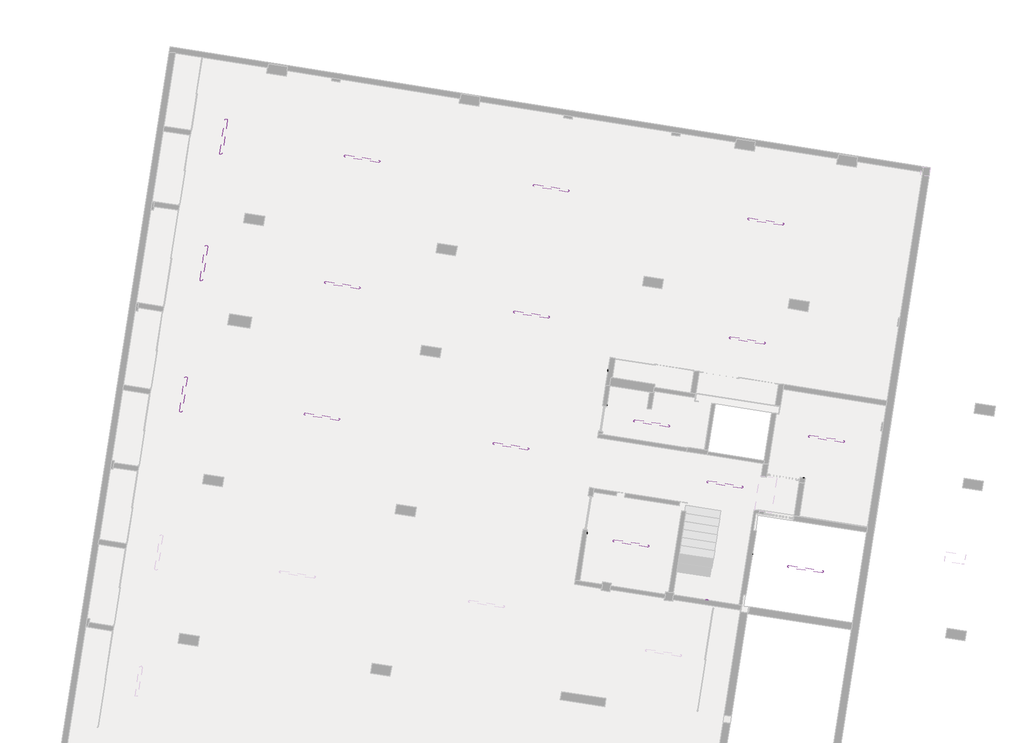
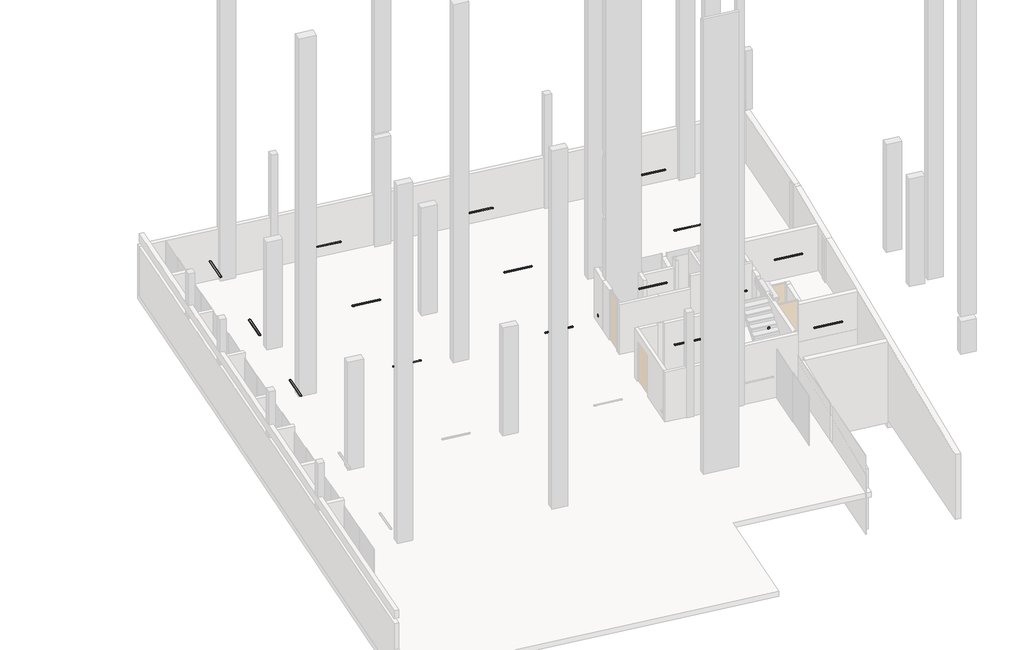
# One storey, part 5 of 5: 21 light fixtures, 1 proxy.
"""IFC4 building model written with IfcOpenShell, lengths in millimetres."""

from ifc_helpers import new_model, si_unit, origin, place, context, project, spatial, transform, mapped, element, save
from components import contacto_exterior_doble_contacto_b074df66, light_fixture_530e717e, light_fixture_2b11a0f5, light_fixture_7b468ed0, contacto_57433d2e

model = new_model("IFC4")

# Units and contexts
model_context = context("Model", 3, world=origin())
ifc_project = project(units=[si_unit("LENGTHUNIT", "METRE", prefix="MILLI")], contexts=[model_context])

# Site, building, storey
site = spatial("IfcSite", under=ifc_project)
building = spatial("IfcBuilding", under=site)
storey = spatial("IfcBuildingStorey", under=building, Name="SÓTANO 2", Elevation=-5800.0)

# Proxy
placement = place(None, origin())
contacto_exterior_doble_contacto_shape = contacto_exterior_doble_contacto_b074df66(model_context)
element("IfcBuildingElementProxy", 1, Name="Contacto exterior doble : Contacto", ObjectType="Contacto exterior doble : Contacto", at=placement, inside=storey, context=model_context, shape_type="MappedRepresentation", body=[
    mapped(contacto_exterior_doble_contacto_shape, transform((-35675.116256, -61314.7816386, -5745.0), x_axis=(0.1540098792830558, 0.9880693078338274, 0.0), y_axis=(-0.9880693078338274, 0.1540098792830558, 0.0), z_axis=(0.0, 0.0, 1.0))),
])

# Light fixtures
light_fixture_shape = light_fixture_530e717e(model_context)
element("IfcLightFixture", 2, ObjectType="Lumin techo_fluorescente : Luminarias bajo locales", at=placement, inside=storey, context=model_context, shape_type="MappedRepresentation", body=[
    mapped(light_fixture_shape, transform((-37770.3470636, -54693.344425, -5090.0), x_axis=(-0.9880693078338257, 0.1540098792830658, 0.0), y_axis=(-0.15400987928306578, -0.9880693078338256, 0.0), z_axis=(0.0, 0.0, 0.9999999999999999))),
])
element("IfcLightFixture", 3, ObjectType="Lumin techo_fluorescente : Luminarias bajo locales", at=placement, inside=storey, context=model_context, shape_type="MappedRepresentation", body=[
    mapped(light_fixture_shape, transform((-38472.8350647, -59200.2425288, -5090.0), x_axis=(-0.9880693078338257, 0.1540098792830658, 0.0), y_axis=(-0.15400987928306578, -0.9880693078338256, 0.0), z_axis=(0.0, 0.0, 0.9999999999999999))),
])
element("IfcLightFixture", 4, ObjectType="Lumin techo_fluorescente : Luminarias bajo locales", at=placement, inside=storey, context=model_context, shape_type="MappedRepresentation", body=[
    mapped(light_fixture_shape, transform((-39203.5912054, -63888.4983572, -5090.0), x_axis=(-0.9880693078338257, 0.1540098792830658, 0.0), y_axis=(-0.15400987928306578, -0.9880693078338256, 0.0), z_axis=(0.0, 0.0, 0.9999999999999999))),
])
element("IfcLightFixture", 5, ObjectType="Lumin techo_fluorescente : Luminarias bajo locales", at=placement, inside=storey, context=model_context, shape_type="MappedRepresentation", body=[
    mapped(light_fixture_shape, transform((-45211.4677434, -58149.8951522, -5090.0), x_axis=(-0.9880693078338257, 0.1540098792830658, 0.0), y_axis=(-0.15400987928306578, -0.9880693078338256, 0.0), z_axis=(0.0, 0.0, 0.9999999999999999))),
])
element("IfcLightFixture", 6, ObjectType="Lumin techo_fluorescente : Luminarias bajo locales", at=placement, inside=storey, context=model_context, shape_type="MappedRepresentation", body=[
    mapped(light_fixture_shape, transform((-45942.2238841, -62838.1509806, -5090.0), x_axis=(-0.9880693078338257, 0.1540098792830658, 0.0), y_axis=(-0.15400987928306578, -0.9880693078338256, 0.0), z_axis=(0.0, 0.0, 0.9999999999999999))),
])
element("IfcLightFixture", 7, ObjectType="Lumin techo_fluorescente : Luminarias bajo locales", at=placement, inside=storey, context=model_context, shape_type="MappedRepresentation", body=[
    mapped(light_fixture_shape, transform((-31582.9121381, -65253.6116517, -5090.0), x_axis=(-0.9880693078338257, 0.1540098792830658, 0.0), y_axis=(-0.15400987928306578, -0.9880693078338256, 0.0), z_axis=(0.0, 0.0, 0.9999999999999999))),
])
element("IfcLightFixture", 8, ObjectType="Lumin techo_fluorescente : Luminarias bajo locales", at=placement, inside=storey, context=model_context, shape_type="MappedRepresentation", body=[
    mapped(light_fixture_shape, transform((-50149.5041337, -57365.0247163, -5090.0), x_axis=(-0.15400987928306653, -0.9880693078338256, 0.0), y_axis=(0.9880693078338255, -0.1540098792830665, 0.0), z_axis=(0.0, 0.0, 0.9999999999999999))),
])
element("IfcLightFixture", 9, ObjectType="Lumin techo_fluorescente : Luminarias bajo locales", at=placement, inside=storey, context=model_context, shape_type="MappedRepresentation", body=[
    mapped(light_fixture_shape, transform((-50879.4902251, -62048.3401981, -5090.0), x_axis=(-0.15400987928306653, -0.9880693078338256, 0.0), y_axis=(0.9880693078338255, -0.1540098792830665, 0.0), z_axis=(0.0, 0.0, 0.9999999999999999))),
])
element("IfcLightFixture", 10, ObjectType="Lumin techo_fluorescente : Luminarias bajo locales", at=placement, inside=storey, context=model_context, shape_type="MappedRepresentation", body=[
    mapped(light_fixture_shape, transform((-30122.6905963, -55885.3808945, -5090.0), x_axis=(-0.9880693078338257, 0.1540098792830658, 0.0), y_axis=(-0.15400987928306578, -0.9880693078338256, 0.0), z_axis=(0.0, 0.0, 0.9999999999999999))),
])
element("IfcLightFixture", 11, ObjectType="Lumin techo_fluorescente : Luminarias bajo locales", at=placement, inside=storey, context=model_context, shape_type="MappedRepresentation", body=[
    mapped(light_fixture_shape, transform((-30782.8569762, -60120.7594367, -5090.0), x_axis=(-0.9880693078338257, 0.1540098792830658, 0.0), y_axis=(-0.15400987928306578, -0.9880693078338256, 0.0), z_axis=(0.0, 0.0, 0.9999999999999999))),
])
element("IfcLightFixture", 12, ObjectType="Lumin techo_fluorescente : Luminarias bajo locales", at=placement, inside=storey, context=model_context, shape_type="MappedRepresentation", body=[
    mapped(light_fixture_shape, transform((-44508.9797424, -53642.9970484, -5090.0), x_axis=(-0.9880693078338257, 0.1540098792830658, 0.0), y_axis=(-0.15400987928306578, -0.9880693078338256, 0.0), z_axis=(0.0, 0.0, 0.9999999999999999))),
])
element("IfcLightFixture", 13, ObjectType="Lumin techo_fluorescente : Luminarias bajo locales", at=placement, inside=storey, context=model_context, shape_type="MappedRepresentation", body=[
    mapped(light_fixture_shape, transform((-49447.0161327, -52858.1266125, -5090.0), x_axis=(-0.15400987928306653, -0.9880693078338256, 0.0), y_axis=(0.9880693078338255, -0.1540098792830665, 0.0), z_axis=(0.0, 0.0, 0.9999999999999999))),
])
element("IfcLightFixture", 14, ObjectType="Lumin techo_fluorescente : Luminarias bajo locales", at=placement, inside=storey, context=model_context, shape_type="MappedRepresentation", body=[
    mapped(light_fixture_shape, transform((-34931.3164114, -67353.8371634, -5090.0), x_axis=(-0.9880693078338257, 0.1540098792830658, 0.0), y_axis=(-0.15400987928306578, -0.9880693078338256, 0.0), z_axis=(0.0, 0.0, 0.9999999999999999))),
])
element("IfcLightFixture", 15, ObjectType="Lumin techo_fluorescente : Luminarias bajo locales", at=placement, inside=storey, context=model_context, shape_type="MappedRepresentation", body=[
    mapped(light_fixture_shape, transform((-28713.078315, -68269.0368034, -5851.0328738), x_axis=(-0.9880693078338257, 0.1540098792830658, 0.0), y_axis=(-0.15400987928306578, -0.9880693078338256, 0.0), z_axis=(0.0, 0.0, 0.9999999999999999))),
])
element("IfcLightFixture", 16, ObjectType="Lumin techo_fluorescente : Luminarias bajo locales", at=placement, inside=storey, context=model_context, shape_type="MappedRepresentation", body=[
    mapped(light_fixture_shape, transform((-27959.582148, -63629.6822691, -5449.4713762), x_axis=(-0.9880693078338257, 0.1540098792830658, 0.0), y_axis=(-0.15400987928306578, -0.9880693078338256, 0.0), z_axis=(0.0, 0.0, 0.9999999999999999))),
])
element("IfcLightFixture", 17, ObjectType="Lumin techo_fluorescente : Luminarias bajo locales", at=placement, inside=storey, context=model_context, shape_type="MappedRepresentation", body=[
    mapped(light_fixture_shape, transform((-34192.8192873, -63074.532793, -5090.0), x_axis=(-0.9880693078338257, 0.1540098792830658, 0.0), y_axis=(-0.15400987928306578, -0.9880693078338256, 0.0), z_axis=(0.0, 0.0, 0.9999999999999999))),
])
light_fixture_2_shape = light_fixture_2b11a0f5(model_context)
element("IfcLightFixture", 18, ObjectType="Apagador escalera simple : Apagador", at=placement, inside=storey, context=model_context, shape_type="MappedRepresentation", body=[
    mapped(light_fixture_2_shape, transform((-36552.8488646, -66848.5867307, -5800.0), x_axis=(-0.15400987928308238, -0.9880693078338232, 0.0), y_axis=(0.9880693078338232, -0.15400987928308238, 0.0), z_axis=(0.0, 0.0, 1.0))),
])
element("IfcLightFixture", 19, ObjectType="Apagador escalera simple : Apagador", at=placement, inside=storey, context=model_context, shape_type="MappedRepresentation", body=[
    mapped(light_fixture_2_shape, transform((-35844.9839556, -62307.1923926, -5800.0), x_axis=(-0.15400987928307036, -0.9880693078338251, 0.0), y_axis=(0.9880693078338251, -0.15400987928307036, 0.0), z_axis=(0.0, 0.0, 1.0))),
])
light_fixture_3_shape = light_fixture_7b468ed0(model_context)
element("IfcLightFixture", 20, ObjectType="Apagador escalera simple : Apagador", at=placement, inside=storey, context=model_context, shape_type="MappedRepresentation", body=[
    mapped(light_fixture_3_shape, transform((-28936.0062427, -65089.1646198, -5800.0), x_axis=(0.9880693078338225, -0.15400987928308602, 0.0), y_axis=(0.15400987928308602, 0.9880693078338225, 0.0), z_axis=(0.0, 0.0, 1.0))),
])
element("IfcLightFixture", 21, ObjectType="Apagador escalera simple : Apagador", at=placement, inside=storey, context=model_context, shape_type="MappedRepresentation", body=[
    mapped(light_fixture_3_shape, transform((-30670.8164162, -67583.2427933, -5800.0), x_axis=(-0.15400987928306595, -0.9880693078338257, 0.0), y_axis=(0.9880693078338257, -0.15400987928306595, 0.0), z_axis=(0.0, 0.0, 1.0))),
])
contacto_shape = contacto_57433d2e(model_context)
element("IfcLightFixture", 22, ObjectType="Lumin muro - arbotante : Contacto", at=placement, inside=storey, context=model_context, shape_type="MappedRepresentation", body=[
    mapped(contacto_shape, transform((-32360.9731523, -69433.7214655, -4280.0), x_axis=(0.9880693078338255, -0.1540098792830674, 0.0), y_axis=(0.1540098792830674, 0.9880693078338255, 0.0), z_axis=(0.0, 0.0, 1.0))),
])

save(model, "model.ifc")
